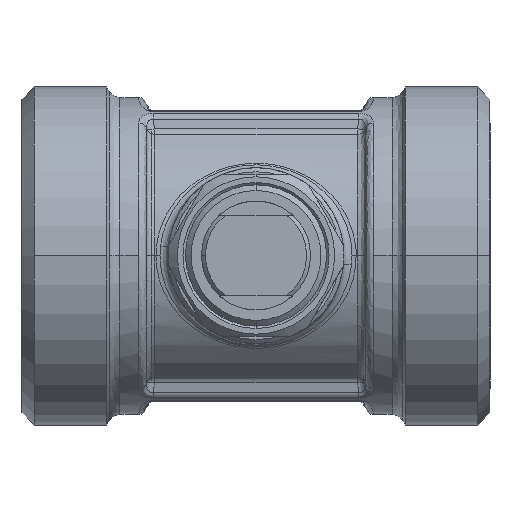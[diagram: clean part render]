
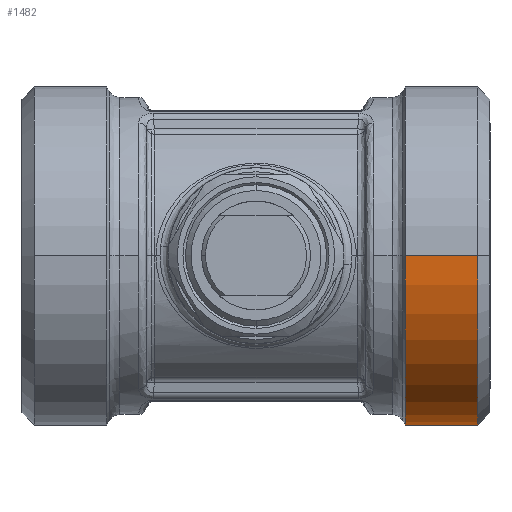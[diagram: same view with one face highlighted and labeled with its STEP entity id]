
A CAD part, top view. The second image highlights one B-rep face of the part: STEP entity #1482.
In plain terms, the highlighted cylindrical face has radius 20.955 mm (diameter 41.91 mm), a partial arc.
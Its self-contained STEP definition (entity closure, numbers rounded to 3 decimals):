
#141 = CARTESIAN_POINT ( 'NONE',  ( 27.495, 0., -20.955 ) ) ;
#377 = VERTEX_POINT ( 'NONE', #18710 ) ;
#479 = CARTESIAN_POINT ( 'NONE',  ( 27.495, 0., 0. ) ) ;
#631 = ORIENTED_EDGE ( 'NONE', *, *, #3613, .F. ) ;
#823 = CIRCLE ( 'NONE', #20739, 20.955 ) ;
#840 = CYLINDRICAL_SURFACE ( 'NONE', #8854, 20.955 ) ;
#1133 = ORIENTED_EDGE ( 'NONE', *, *, #6257, .T. ) ;
#1429 = DIRECTION ( 'NONE',  ( 1., 0., 0. ) ) ;
#1482 = ADVANCED_FACE ( 'NONE', ( #21270 ), #840, .F. ) ;
#3327 = EDGE_CURVE ( 'NONE', #377, #25434, #823, .T. ) ;
#3574 = CARTESIAN_POINT ( 'NONE',  ( 18.503, 0., 20.955 ) ) ;
#3613 = EDGE_CURVE ( 'NONE', #19073, #10498, #23762, .T. ) ;
#3718 = DIRECTION ( 'NONE',  ( -1., 0., 0. ) ) ;
#4927 = ORIENTED_EDGE ( 'NONE', *, *, #5100, .T. ) ;
#5100 = EDGE_CURVE ( 'NONE', #19073, #19701, #13309, .T. ) ;
#5470 = CARTESIAN_POINT ( 'NONE',  ( 60., 0., 20.955 ) ) ;
#6257 = EDGE_CURVE ( 'NONE', #19701, #25434, #20943, .T. ) ;
#7615 = CARTESIAN_POINT ( 'NONE',  ( 18.503, 0., 0. ) ) ;
#7956 = DIRECTION ( 'NONE',  ( 0., 0., 1. ) ) ;
#8604 = DIRECTION ( 'NONE',  ( 1., 0., 0. ) ) ;
#8854 = AXIS2_PLACEMENT_3D ( 'NONE', #13067, #11332, #12924 ) ;
#9944 = CARTESIAN_POINT ( 'NONE',  ( 18.503, 0., 0. ) ) ;
#10498 = VERTEX_POINT ( 'NONE', #3574 ) ;
#11332 = DIRECTION ( 'NONE',  ( -1., 0., 0. ) ) ;
#12924 = DIRECTION ( 'NONE',  ( 0., 0., 1. ) ) ;
#12991 = DIRECTION ( 'NONE',  ( -1., 0., 0. ) ) ;
#13067 = CARTESIAN_POINT ( 'NONE',  ( 60., 0., 0. ) ) ;
#13309 = CIRCLE ( 'NONE', #14560, 20.955 ) ;
#14560 = AXIS2_PLACEMENT_3D ( 'NONE', #479, #8604, #14692 ) ;
#14618 = CARTESIAN_POINT ( 'NONE',  ( 18.503, 0., -20.955 ) ) ;
#14692 = DIRECTION ( 'NONE',  ( 0., 0., 1. ) ) ;
#17806 = AXIS2_PLACEMENT_3D ( 'NONE', #9944, #1429, #7956 ) ;
#17811 = EDGE_LOOP ( 'NONE', ( #4927, #1133, #18875, #23582, #631 ) ) ;
#18710 = CARTESIAN_POINT ( 'NONE',  ( 18.503, -20.955, 0. ) ) ;
#18875 = ORIENTED_EDGE ( 'NONE', *, *, #3327, .F. ) ;
#19073 = VERTEX_POINT ( 'NONE', #23042 ) ;
#19611 = VECTOR ( 'NONE', #12991, 1000. ) ;
#19701 = VERTEX_POINT ( 'NONE', #141 ) ;
#20739 = AXIS2_PLACEMENT_3D ( 'NONE', #7615, #21676, #23398 ) ;
#20943 = LINE ( 'NONE', #25068, #19611 ) ;
#21270 = FACE_OUTER_BOUND ( 'NONE', #17811, .T. ) ;
#21676 = DIRECTION ( 'NONE',  ( 1., 0., 0. ) ) ;
#23042 = CARTESIAN_POINT ( 'NONE',  ( 27.495, 0., 20.955 ) ) ;
#23335 = CIRCLE ( 'NONE', #17806, 20.955 ) ;
#23398 = DIRECTION ( 'NONE',  ( 0., 0., 1. ) ) ;
#23582 = ORIENTED_EDGE ( 'NONE', *, *, #25075, .F. ) ;
#23762 = LINE ( 'NONE', #5470, #24390 ) ;
#24390 = VECTOR ( 'NONE', #3718, 1000. ) ;
#25068 = CARTESIAN_POINT ( 'NONE',  ( 60., 0., -20.955 ) ) ;
#25075 = EDGE_CURVE ( 'NONE', #10498, #377, #23335, .T. ) ;
#25434 = VERTEX_POINT ( 'NONE', #14618 ) ;
